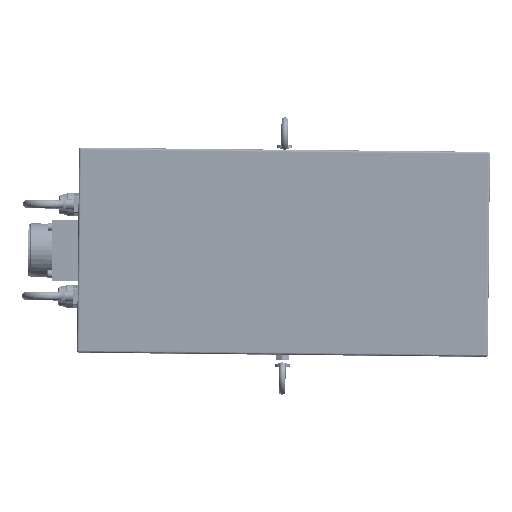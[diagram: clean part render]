
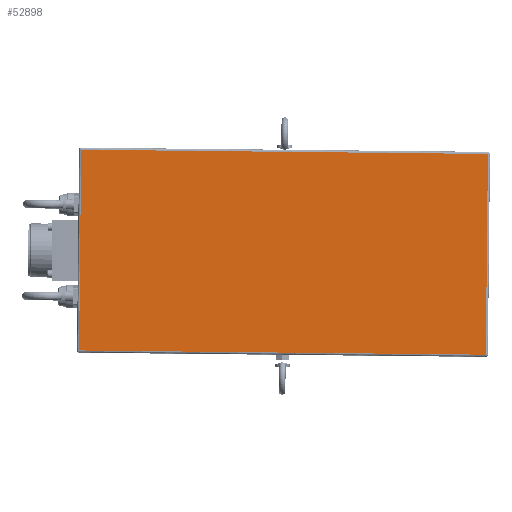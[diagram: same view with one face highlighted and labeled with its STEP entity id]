
A CAD part, top view. The second image highlights one B-rep face of the part: STEP entity #52898.
In plain terms, the highlighted planar face has unit normal (0, 0, 1).
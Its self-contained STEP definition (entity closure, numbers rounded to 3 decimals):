
#52859=CARTESIAN_POINT('',(-101.478,98.56,142.52));
#52860=DIRECTION('',(0.01,1.,0.));
#52861=DIRECTION('',(0.,0.,1.));
#52862=AXIS2_PLACEMENT_3D('',#52859,#52861,#52860);
#52863=PLANE('',#52862);
#52864=CARTESIAN_POINT('',(89.01,-95.931,142.52));
#52865=VERTEX_POINT('',#52864);
#52866=CARTESIAN_POINT('',(90.986,94.059,142.52));
#52867=VERTEX_POINT('',#52866);
#52868=CARTESIAN_POINT('',(89.01,-95.931,142.52));
#52869=DIRECTION('',(0.01,1.,0.));
#52870=VECTOR('',#52869,190.);
#52871=LINE('',#52868,#52870);
#52872=EDGE_CURVE('',#52865,#52867,#52871,.T.);
#52873=ORIENTED_EDGE('E103',*,*,#52872,.T.);
#52874=CARTESIAN_POINT('',(-293.994,98.062,142.52));
#52875=VERTEX_POINT('',#52874);
#52876=CARTESIAN_POINT('',(90.986,94.059,142.52));
#52877=DIRECTION('',(-1.,0.01,0.));
#52878=VECTOR('',#52877,385.);
#52879=LINE('',#52876,#52878);
#52880=EDGE_CURVE('',#52867,#52875,#52879,.T.);
#52881=ORIENTED_EDGE('E108',*,*,#52880,.T.);
#52882=CARTESIAN_POINT('',(-295.969,-91.928,142.52));
#52883=VERTEX_POINT('',#52882);
#52884=CARTESIAN_POINT('',(-293.994,98.062,142.52));
#52885=DIRECTION('',(-0.01,-1.,0.));
#52886=VECTOR('',#52885,190.);
#52887=LINE('',#52884,#52886);
#52888=EDGE_CURVE('',#52875,#52883,#52887,.T.);
#52889=ORIENTED_EDGE('E110',*,*,#52888,.T.);
#52890=CARTESIAN_POINT('',(-295.969,-91.928,142.52));
#52891=DIRECTION('',(1.,-0.01,0.));
#52892=VECTOR('',#52891,385.);
#52893=LINE('',#52890,#52892);
#52894=EDGE_CURVE('',#52883,#52865,#52893,.T.);
#52895=ORIENTED_EDGE('E106',*,*,#52894,.T.);
#52896=EDGE_LOOP('',(#52873,#52881,#52889,#52895));
#52897=FACE_OUTER_BOUND('',#52896,.T.);
#52898=ADVANCED_FACE('F8',(#52897),#52863,.T.);
